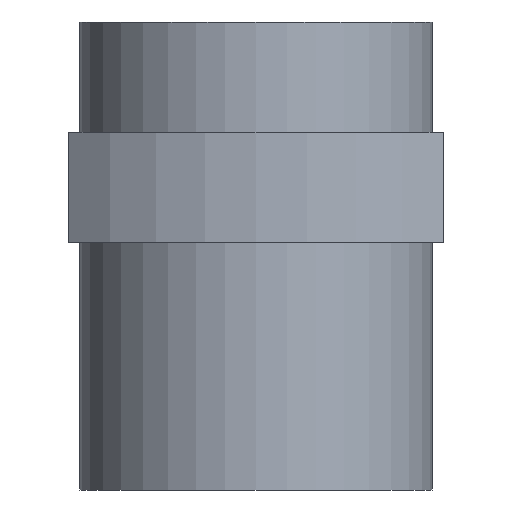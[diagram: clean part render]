
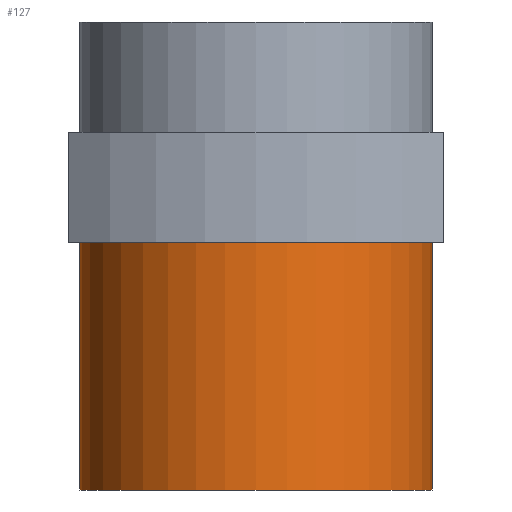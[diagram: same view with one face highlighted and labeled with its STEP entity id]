
A CAD part, front view. The second image highlights one B-rep face of the part: STEP entity #127.
In plain terms, the highlighted cylindrical face has radius 16 mm (diameter 32 mm), a partial arc.
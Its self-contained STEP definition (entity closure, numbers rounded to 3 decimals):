
#127=ADVANCED_FACE('',(#264),#265,.T.);
#264=FACE_OUTER_BOUND('',#397,.T.);
#265=CYLINDRICAL_SURFACE('',#398,16.0);
#397=EDGE_LOOP('',(#700,#701,#702,#703));
#398=AXIS2_PLACEMENT_3D('',#704,#705,#706);
#700=ORIENTED_EDGE('',*,*,#737,.T.);
#701=ORIENTED_EDGE('',*,*,#849,.F.);
#702=ORIENTED_EDGE('',*,*,#739,.T.);
#703=ORIENTED_EDGE('',*,*,#846,.T.);
#704=CARTESIAN_POINT('',(0.,0.0,-21.25));
#705=DIRECTION('',(0.,0.0,-1.0));
#706=DIRECTION('',(-1.0,0.0,0.));
#737=EDGE_CURVE('',#864,#865,#866,.T.);
#739=EDGE_CURVE('',#869,#867,#870,.T.);
#846=EDGE_CURVE('',#867,#864,#1023,.T.);
#849=EDGE_CURVE('',#869,#865,#1026,.T.);
#864=VERTEX_POINT('',#1043);
#865=VERTEX_POINT('',#1044);
#866=LINE('',#1045,#1046);
#867=VERTEX_POINT('',#1047);
#869=VERTEX_POINT('',#1049);
#870=LINE('',#1050,#1051);
#1023=CIRCLE('',#1352,16.0);
#1026=CIRCLE('',#1355,16.0);
#1043=CARTESIAN_POINT('',(-16.0,0.,-20.0));
#1044=CARTESIAN_POINT('',(-16.0,0.0,-42.5));
#1045=CARTESIAN_POINT('',(-16.0,0.,-21.25));
#1046=VECTOR('',#1368,1.0);
#1047=CARTESIAN_POINT('',(16.0,0.,-20.0));
#1049=CARTESIAN_POINT('',(16.0,0.,-42.5));
#1050=CARTESIAN_POINT('',(16.0,0.,-21.25));
#1051=VECTOR('',#1372,1.0);
#1352=AXIS2_PLACEMENT_3D('',#1525,#1526,#1527);
#1355=AXIS2_PLACEMENT_3D('',#1528,#1529,#1530);
#1368=DIRECTION('',(0.,0.0,-1.0));
#1372=DIRECTION('',(0.,-0.0,1.0));
#1525=CARTESIAN_POINT('',(0.,0.0,-20.0));
#1526=DIRECTION('',(0.,0.0,-1.0));
#1527=DIRECTION('',(-1.0,0.0,0.));
#1528=CARTESIAN_POINT('',(0.,0.0,-42.5));
#1529=DIRECTION('',(0.,0.0,-1.0));
#1530=DIRECTION('',(-1.0,0.0,0.));
